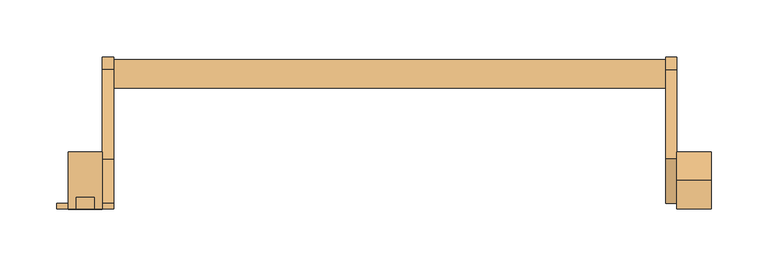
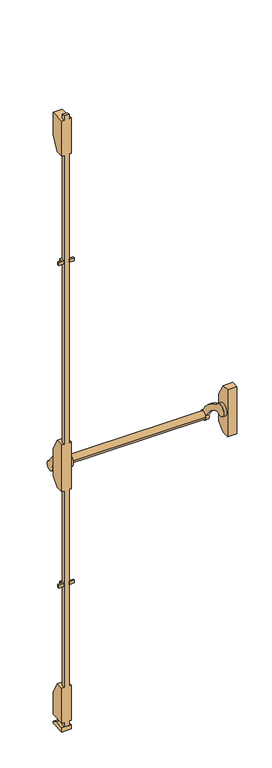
"""IFC4 building model written with IfcOpenShell, lengths in millimetres: door geometry, BarreAP : BarreAP."""

from ifc_helpers import new_model, si_unit, point, frame, frame_2d, origin, place, context, project, spatial, polyline, circle_curve, trimmed, segment, composite_curve, outline, extrude, faceted_brep, source, transform, mapped, element, save


def door_e2584a8f(model_context):
    return source(origin(), model_context, "Body", "SolidModel", [
        extrude(outline(composite_curve([segment(trimmed(circle_curve(frame_2d((118.8869712, 826.0898817)), 12.5), [point((131.3869712, 826.0898817))], [point((106.3869712, 826.0898817))], False, "CARTESIAN"), True, "CONTINUOUS"), segment(trimmed(circle_curve(frame_2d((118.8869712, 826.0898817)), 12.5), [point((106.3869712, 826.0898817))], [point((131.3869712, 826.0898817))], False, "CARTESIAN"), True, "CONTINUOUS")], self_intersect=False)), frame((25.0, 0.0, 0.0), z_axis=(1.0, 0.0, 0.0), x_axis=(0.0, 1.0, 0.0)), (0.0, 0.0, 1.0), 485.0),
        extrude(outline(composite_curve([segment(trimmed(circle_curve(frame_2d((0.0, 773.4981705)), 140.0), [point((43.940256, 906.4239163))], [point((122.9027189, 840.5423476))], False, "CARTESIAN"), True, "CONTINUOUS"), segment(trimmed(circle_curve(frame_2d((118.8869712, 826.0898817)), 15.0), [point((122.9027189, 840.5423476))], [point((104.960922, 831.663494))], False, "CARTESIAN"), True, "CONTINUOUS"), segment(trimmed(circle_curve(frame_2d((0.0, 773.4981705)), 120.0), [point((104.960922, 831.663494))], [point((39.9080609, 886.6677189))], True, "CARTESIAN"), True, "CONTINUOUS"), segment(trimmed(circle_curve(frame_2d((25.0, 900.0)), 20.0), [point((39.9080609, 886.6677189))], [point((43.940256, 906.4239163))], False, "CARTESIAN"), True, "CONTINUOUS")], self_intersect=False)), frame((510.0, 0.0, 0.0), z_axis=(1.0, 0.0, 0.0), x_axis=(0.0, 1.0, 0.0)), (0.0, 0.0, 1.0), 10.0),
        extrude(outline(composite_curve([segment(trimmed(circle_curve(frame_2d((0.0, 773.4981705)), 140.0), [point((43.940256, 906.4239163))], [point((122.9027189, 840.5423476))], False, "CARTESIAN"), True, "CONTINUOUS"), segment(trimmed(circle_curve(frame_2d((118.8869712, 826.0898817)), 15.0), [point((122.9027189, 840.5423476))], [point((104.960922, 831.663494))], False, "CARTESIAN"), True, "CONTINUOUS"), segment(trimmed(circle_curve(frame_2d((0.0, 773.4981705)), 120.0), [point((104.960922, 831.663494))], [point((39.9080609, 886.6677189))], True, "CARTESIAN"), True, "CONTINUOUS"), segment(trimmed(circle_curve(frame_2d((25.0, 900.0)), 20.0), [point((39.9080609, 886.6677189))], [point((43.940256, 906.4239163))], False, "CARTESIAN"), True, "CONTINUOUS")], self_intersect=False)), frame((15.0, 0.0, 0.0), z_axis=(1.0, 0.0, 0.0), x_axis=(0.0, 1.0, 0.0)), (0.0, 0.0, 1.0), 10.0),
        extrude(outline(polyline([(50.0, 936.6987298), (50.0, 845.0), (25.0, 820.0), (0.0, 820.0), (0.0, 980.0), (25.0, 980.0), (50.0, 936.6987298)])), frame((520.0, 0.0, 0.0), z_axis=(1.0, 0.0, 0.0), x_axis=(0.0, 1.0, 0.0)), (0.0, 0.0, 1.0), 30.0),
        extrude(outline(polyline([(-13.0, 5.0), (-13.0, 15.0), (13.0, 15.0), (13.0, 5.0), (25.0, 5.0), (25.0, 0.0), (8.0, 0.0), (8.0, 10.0), (-8.0, 10.0), (-8.0, 0.0), (-25.0, 0.0), (-25.0, 5.0), (-13.0, 5.0)])), frame((0.0, 0.0, 1595.0), z_axis=(0.0, 0.0, 1.0), x_axis=(1.0, 0.0, 0.0)), (0.0, 0.0, 1.0), 10.0),
        faceted_brep([(15.0, 50.0, 2008.3012702), (15.0, 50.0, 2085.0), (15.0, 0.0, 2085.0), (15.0, 0.0, 1965.0), (15.0, 25.0, 1965.0), (15.0, 50.0, 106.6987298), (15.0, 25.0, 150.0), (15.0, 0.0, 150.0), (15.0, 0.0, 30.0), (15.0, 50.0, 30.0), (-15.0, 50.0, 2008.3012702), (-15.0, 25.0, 1965.0), (-15.0, 0.0, 1965.0), (-15.0, 0.0, 2085.0), (-15.0, 50.0, 2085.0), (-15.0, 50.0, 106.6987298), (-15.0, 50.0, 30.0), (-15.0, 0.0, 30.0), (-15.0, 0.0, 150.0), (-15.0, 25.0, 150.0), (8.0, 0.0, 1965.0), (8.0, 10.0, 1965.0), (-8.0, 10.0, 1965.0), (-8.0, 0.0, 1965.0), (8.0, 0.0, 2085.0), (8.0, 0.0, 2100.0), (-8.0, 0.0, 2100.0), (-8.0, 0.0, 2085.0), (-8.0, 0.0, 980.0), (-15.0, 0.0, 980.0), (-15.0, 0.0, 820.0), (-8.0, 0.0, 820.0), (-8.0, 0.0, 150.0), (-8.0, 0.0, 30.0), (-8.0, 0.0, 15.0), (8.0, 0.0, 15.0), (8.0, 0.0, 30.0), (8.0, 0.0, 150.0), (8.0, 0.0, 820.0), (15.0, 0.0, 820.0), (15.0, 0.0, 980.0), (8.0, 0.0, 980.0), (-8.0, 10.0, 2085.0), (8.0, 10.0, 2085.0), (8.0, 10.0, 30.0), (-8.0, 10.0, 30.0), (-8.0, 10.0, 150.0), (8.0, 10.0, 150.0), (8.0, 10.0, 2100.0), (-8.0, 10.0, 2100.0), (-8.0, 10.0, 15.0), (8.0, 10.0, 15.0), (-8.0, 10.0, 820.0), (-8.0, 10.0, 980.0), (8.0, 10.0, 820.0), (8.0, 10.0, 980.0), (15.0, 25.0, 980.0), (15.0, 25.0, 820.0), (15.0, 50.0, 845.0), (15.0, 50.0, 936.6987298), (-15.0, 25.0, 980.0), (-15.0, 50.0, 936.6987298), (-15.0, 50.0, 845.0), (-15.0, 25.0, 820.0)], [[[0, 1, 2, 3, 4]], [[5, 6, 7, 8, 9]], [[10, 11, 12, 13, 14]], [[15, 16, 17, 18, 19]], [[4, 11, 10, 0]], [[3, 20, 21, 22, 23, 12, 11, 4]], [[2, 24, 25, 26, 27, 13, 12, 23, 28, 29, 30, 31, 32, 18, 17, 33, 34, 35, 36, 8, 7, 37, 38, 39, 40, 41, 20, 3]], [[1, 14, 13, 27, 42, 43, 24, 2]], [[0, 10, 14, 1]], [[9, 16, 15, 5]], [[8, 36, 44, 45, 33, 17, 16, 9]], [[6, 19, 18, 32, 46, 47, 37, 7]], [[5, 15, 19, 6]], [[25, 48, 49, 26]], [[35, 34, 50, 51]], [[34, 33, 45, 50]], [[32, 31, 52, 46]], [[49, 42, 27, 26]], [[22, 53, 28, 23]], [[50, 45, 44, 51]], [[46, 52, 54, 47]], [[48, 43, 42, 49]], [[21, 55, 53, 22]], [[20, 41, 55, 21]], [[25, 24, 43, 48]], [[51, 44, 36, 35]], [[47, 54, 38, 37]], [[56, 40, 39, 57, 58, 59]], [[60, 61, 62, 63, 30, 29]], [[59, 61, 60, 56]], [[58, 62, 61, 59]], [[57, 63, 62, 58]], [[39, 38, 54, 52, 31, 30, 63, 57]], [[56, 60, 29, 28, 53, 55, 41, 40]]]),
        extrude(outline(polyline([(-8.0, 10.0), (-8.0, 0.0), (-25.0, 0.0), (-25.0, 5.0), (-13.0, 5.0), (-13.0, 15.0), (13.0, 15.0), (13.0, 5.0), (25.0, 5.0), (25.0, 0.0), (8.0, 0.0), (8.0, 10.0), (-8.0, 10.0)])), frame((0.0, 0.0, 495.0), z_axis=(0.0, 0.0, 1.0), x_axis=(1.0, 0.0, 0.0)), (0.0, 0.0, 1.0), 10.0),
        extrude(outline(polyline([(32.2782624, 15.0), (50.0, 6.7362181), (50.0, 0.0), (0.0, 0.0), (0.0, 15.0), (32.2782624, 15.0)])), frame((-15.0, 0.0, 0.0), z_axis=(1.0, 0.0, 0.0), x_axis=(0.0, 1.0, 0.0)), (0.0, 0.0, 1.0), 30.0),
    ])


if __name__ == "__main__":
    model = new_model("IFC4")
    model_context = context("Model", 3, world=origin())
    ifc_project = project(units=[si_unit("LENGTHUNIT", "METRE", prefix="MILLI")], contexts=[model_context])
    site = spatial("IfcSite", under=ifc_project)
    building = spatial("IfcBuilding", under=site)
    placement = place(None, origin())
    door_shape = door_e2584a8f(model_context)
    element("IfcDoor", 1, ObjectType="BarreAP : BarreAP", at=placement, inside=building, context=model_context, shape_type="MappedRepresentation", body=[
        mapped(door_shape, transform((0.0, 0.0, 0.0), x_axis=(1.0, 0.0, 0.0), y_axis=(0.0, 1.0, 0.0), z_axis=(0.0, 0.0, 1.0))),
    ])
    save(model, "model.ifc")
